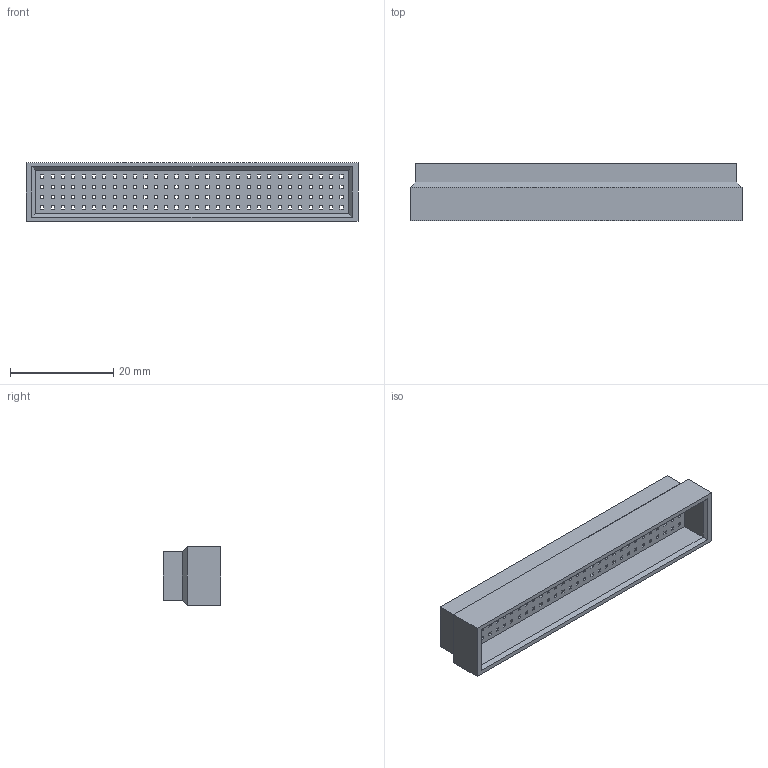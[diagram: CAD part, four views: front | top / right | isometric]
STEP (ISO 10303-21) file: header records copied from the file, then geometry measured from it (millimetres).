
FILE_DESCRIPTION (( 'STEP AP214' ), '1' );
FILE_NAME ('1375801-1.step', '2011-05-17T08:44:28', ( 'vpeshkov' ), ( 'licard' ), 'SwSTEP 2.0', 'SolidWorks 2009', '' );
FILE_SCHEMA (( 'AUTOMOTIVE_DESIGN' ));
Length unit declared in the file: millimetre
Products named in the file (1): 1375801-1
Bounding box: 64.36 x 11.18 x 11.43 mm (x, y, z)
Volume: 3833.6 mm3; surface area: 6161.2 mm2
Topology: 1 solids, 1 shells, 983 faces, 2448 edges, 1468 vertices
Faces by surface type: plane 983
Entity records: 28460 total; most frequent: CARTESIAN_POINT 4900, ORIENTED_EDGE 4896, DIRECTION 4416, VECTOR 2448, LINE 2448, EDGE_CURVE 2448, VERTEX_POINT 1468, EDGE_LOOP 1224
